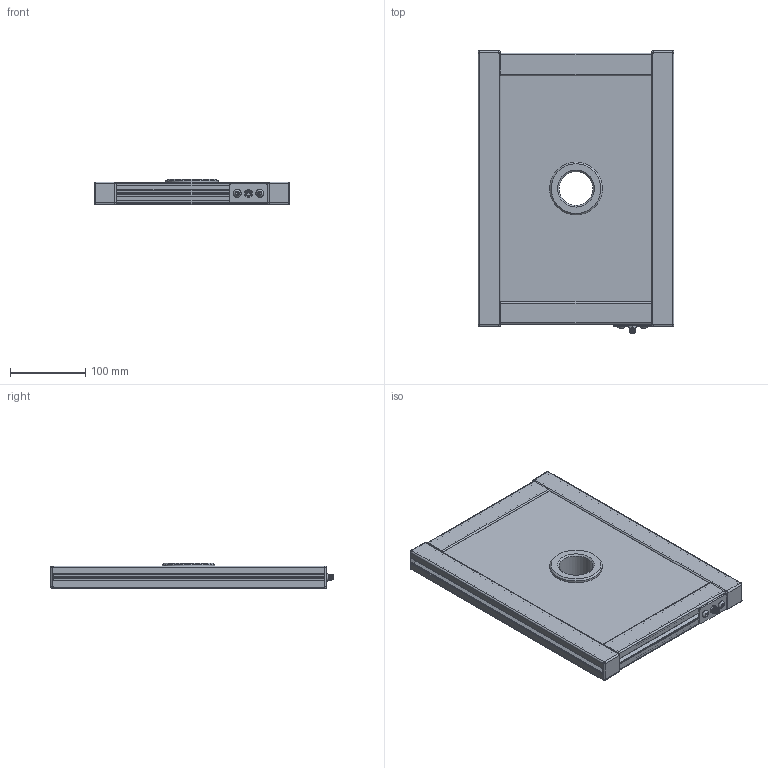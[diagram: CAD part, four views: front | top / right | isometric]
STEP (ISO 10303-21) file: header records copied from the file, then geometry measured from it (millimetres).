
FILE_DESCRIPTION (( 'STEP AP214' ), '1' );
FILE_NAME ('19027-STP01v01 - FL2030.STEP', '2019-10-01T20:39:13', ( '' ), ( '' ), 'SwSTEP 2.0', 'SolidWorks 2018', '' );
FILE_SCHEMA (( 'AUTOMOTIVE_DESIGN' ));
Length unit declared in the file: millimetre
Products named in the file (1): 19027-STP01v01 - FL2030
Bounding box: 260 x 375.01 x 33.6 mm (x, y, z)
Volume: 1978148.4 mm3; surface area: 503119.8 mm2
Topology: 1 solids, 21 shells, 810 faces, 2183 edges, 1395 vertices
Faces by surface type: plane 453, cylinder 299, cone 22, sphere 21, bspline 11, torus 4
Full cylindrical faces by diameter (mm): 1 x3, 5.8 x1, 6 x2, 6.5 x1, 6.9 x1, 10.5 x2, 45 x1, 70 x1, 74 x1
Entity records: 29126 total; most frequent: CARTESIAN_POINT 8092, DIRECTION 4257, ORIENTED_EDGE 4250, EDGE_CURVE 2125, AXIS2_PLACEMENT_3D 1437, LINE 1383, VERTEX_POINT 1383, VECTOR 1383
